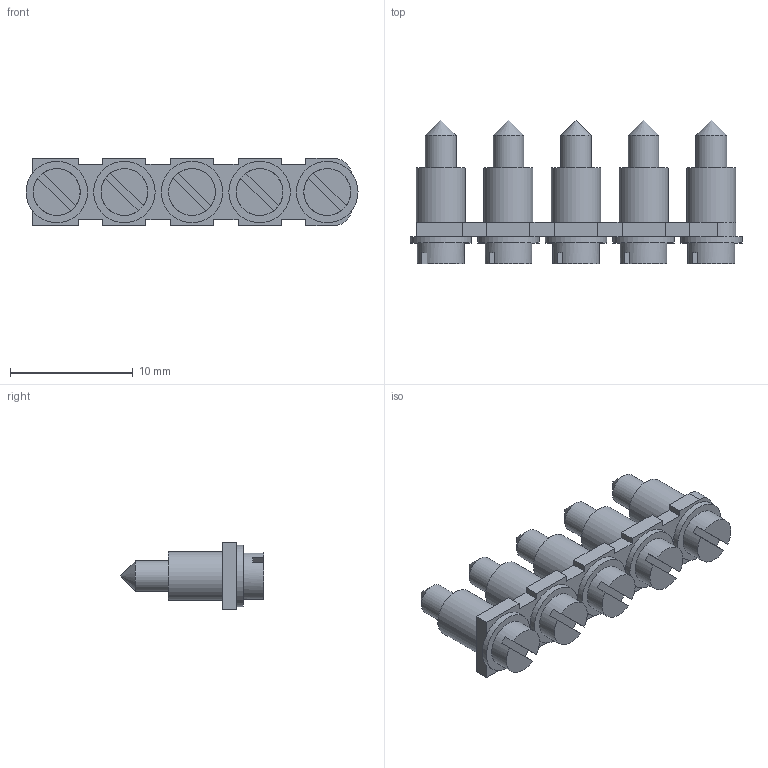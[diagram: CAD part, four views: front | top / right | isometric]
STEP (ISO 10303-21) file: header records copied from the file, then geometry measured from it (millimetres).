
FILE_DESCRIPTION(('STEP AP214'), '1');
FILE_NAME('Ìîñò Ì8-5', '', ('UNSPECIFIED'), ('UNSPECIFIED'), 'ASCON STEP Converter 1.6', 'ASCON Math Kernel', '');
FILE_SCHEMA(('AUTOMOTIVE_DESIGN { 1 0 10303 214 3 1 1}'));
Length unit declared in the file: millimetre
Products named in the file (5): 襠窏.741134.935; 襠窏.713161.061; 襠窏.758152.007
Assembly tree (16 placements, depth 2):
  (unnamed)
    襠窏.741134.935
    襠窏.713161.061  x5
    襠窏.758152.007  x5
    (unnamed)  x5
Bounding box: 27 x 11.7 x 5.5 mm (x, y, z)
Volume: 610.3 mm3; surface area: 1650.8 mm2
Topology: 16 solids, 16 shells, 155 faces, 334 edges, 216 vertices
Faces by surface type: plane 93, cylinder 47, cone 10, torus 5
Full cylindrical faces by diameter (mm): 2.013 x5, 2.18 x5, 2.5 x5, 2.7 x5, 2.72 x5, 2.9 x5, 3.8 x5, 4 x5, 5 x5
Entity records: 3046 total; most frequent: DIRECTION 356, CARTESIAN_POINT 348, ORIENTED_EDGE 306, EDGE_CURVE 153, AXIS2_PLACEMENT_3D 119, LINE 118, VECTOR 118, VERTEX_POINT 111
